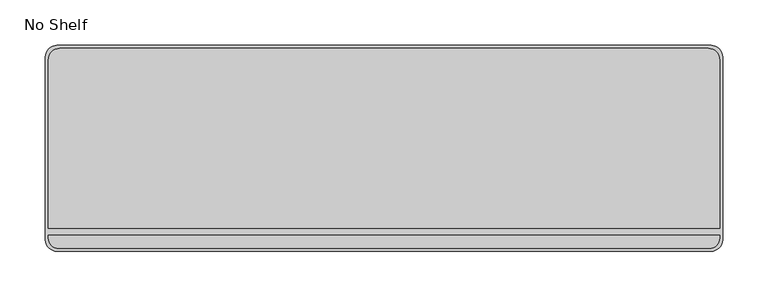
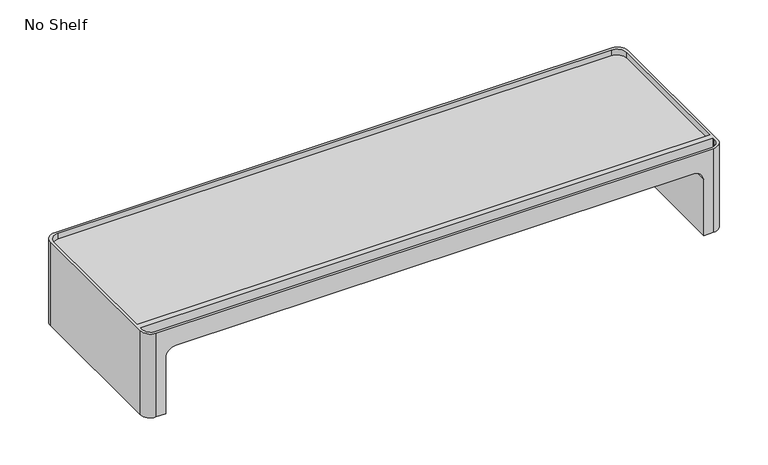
"""IFC4 building model written with IfcOpenShell, lengths in millimetres: furniture geometry, Steelcase - Worktool - SOTO II - Monitor Bridge : No Shelf."""

from ifc_helpers import new_model, si_unit, frame, origin, place, context, project, spatial, polyline, circle_curve, source, transform, mapped, element, save
from ifc_brep_helpers import plane_surface, cylinder_surface, revolved_surface, advanced_brep


def no_shelf_d7dae3b1(model_context):
    return source(origin(), model_context, "Body", "AdvancedBrep", [
        advanced_brep(
        [(-1.9313861, 14.6303873, 838.2031248), (10.7686139, 1.9303873, 838.2031248), (730.8586235, 1.9303873, 838.2031248), (743.5586235, 14.6303873, 838.2031248), (743.5586235, 215.9, 838.2031248), (730.8586235, 228.6, 838.2031248), (10.7686139, 228.6, 838.2031248), (-1.9313861, 215.9, 838.2031248), (13.9436139, 225.4249758, 838.2031248), (727.683672, 225.4249758, 838.2031248), (740.383672, 212.7249758, 838.2031248), (740.383672, 27.2122743, 838.2031248), (1.2436139, 27.2122743, 838.2031248), (1.2436139, 212.7249758, 838.2031248), (1.2436139, 19.6180613, 838.2031248), (740.383672, 19.6180613, 838.2031248), (740.383672, 16.5353751, 838.2031248), (728.953672, 5.1053751, 838.2031248), (12.6736139, 5.1053751, 838.2031248), (1.2436139, 16.5353751, 838.2031248), (-1.9313861, 14.6303873, 723.9), (-1.9313861, 215.9, 723.9), (10.7686139, 228.6, 723.9), (23.4466191, 228.6, 723.9), (23.4466191, 1.9303873, 723.9), (10.7686139, 1.9303873, 723.9), (730.8586235, 228.6, 723.9), (743.5586235, 215.9, 723.9), (743.5586235, 14.6303873, 723.9), (730.8586235, 1.9303873, 723.9), (718.1872071, 1.9303873, 723.9), (718.1872071, 228.6, 723.9), (23.4466191, 1.9303873, 800.0309877), (36.1466191, 1.9303873, 812.7309877), (705.4872071, 1.9303873, 812.7309877), (718.1872071, 1.9303873, 800.0309877), (718.1872071, 228.6, 800.0309877), (705.4872071, 228.6, 812.7309877), (36.1466191, 228.6, 812.7309877), (23.4466191, 228.6, 800.0309877), (727.683672, 225.4249758, 830.3983686), (13.9436139, 225.4249758, 830.3983686), (1.2436139, 212.7249758, 830.3983686), (1.2436139, 27.2122743, 830.3983686), (740.383672, 27.2122743, 830.3983686), (740.383672, 212.7249758, 830.3983686), (740.383672, 19.6180613, 817.0762894), (1.2436139, 19.6180613, 817.0762894), (1.2436139, 16.5353751, 817.0762894), (12.6736139, 5.1053751, 817.0762894), (728.953672, 5.1053751, 817.0762894), (740.383672, 16.5353751, 817.0762894)],
        [
            (0, 1, circle_curve(frame((10.7686139, 14.6303873, 838.2031248), z_axis=(0.0, 0.0, 1.0), x_axis=(1.0, 0.0, 0.0)), 12.7)),
            (1, 2),
            (2, 3, circle_curve(frame((730.8586235, 14.6303873, 838.2031248), z_axis=(0.0, 0.0, 1.0), x_axis=(1.0, 0.0, 0.0)), 12.7)),
            (3, 4),
            (4, 5, circle_curve(frame((730.8586235, 215.9, 838.2031248), z_axis=(0.0, 0.0, 1.0), x_axis=(1.0, 0.0, 0.0)), 12.7)),
            (5, 6),
            (6, 7, circle_curve(frame((10.7686139, 215.9, 838.2031248), z_axis=(0.0, 0.0, 1.0), x_axis=(1.0, 0.0, 0.0)), 12.7)),
            (7, 0),
            (8, 9),
            (9, 10, circle_curve(frame((727.683672, 212.7249758, 838.2031248), z_axis=(0.0, 0.0, -1.0), x_axis=(1.0, 0.0, 0.0)), 12.7)),
            (10, 11),
            (11, 12),
            (12, 13),
            (13, 8, circle_curve(frame((13.9436139, 212.7249758, 838.2031248), z_axis=(0.0, 0.0, -1.0), x_axis=(1.0, 0.0, 0.0)), 12.7)),
            (14, 15),
            (15, 16),
            (16, 17, circle_curve(frame((728.953672, 16.5353751, 838.2031248), z_axis=(0.0, 0.0, -1.0), x_axis=(1.0, 0.0, 0.0)), 11.43)),
            (17, 18),
            (18, 19, circle_curve(frame((12.6736139, 16.5353751, 838.2031248), z_axis=(0.0, 0.0, -1.0), x_axis=(1.0, 0.0, 0.0)), 11.43)),
            (19, 14),
            (20, 21),
            (21, 22, circle_curve(frame((10.7686139, 215.9, 723.9), z_axis=(0.0, 0.0, -1.0), x_axis=(1.0, 0.0, 0.0)), 12.7)),
            (22, 23),
            (23, 24),
            (24, 25),
            (25, 20, circle_curve(frame((10.7686139, 14.6303873, 723.9), z_axis=(0.0, 0.0, -1.0), x_axis=(1.0, 0.0, 0.0)), 12.7)),
            (26, 27, circle_curve(frame((730.8586235, 215.9, 723.9), z_axis=(0.0, 0.0, -1.0), x_axis=(1.0, 0.0, 0.0)), 12.7)),
            (27, 28),
            (28, 29, circle_curve(frame((730.8586235, 14.6303873, 723.9), z_axis=(0.0, 0.0, -1.0), x_axis=(1.0, 0.0, 0.0)), 12.7)),
            (29, 30),
            (30, 31),
            (31, 26),
            (0, 20),
            (25, 1),
            (24, 32),
            (32, 33, circle_curve(frame((36.1466191, 1.9303873, 800.0309877), z_axis=(0.0, 1.0, 0.0), x_axis=(1.0, 0.0, 0.0)), 12.7)),
            (33, 34),
            (34, 35, circle_curve(frame((705.4872071, 1.9303873, 800.0309877), z_axis=(0.0, 1.0, 0.0), x_axis=(1.0, 0.0, 0.0)), 12.7)),
            (35, 30),
            (29, 2),
            (28, 3),
            (27, 4),
            (26, 5),
            (31, 36),
            (36, 37, circle_curve(frame((705.4872071, 228.6, 800.0309877), z_axis=(0.0, -1.0, 0.0), x_axis=(1.0, 0.0, 0.0)), 12.7)),
            (37, 38),
            (38, 39, circle_curve(frame((36.1466191, 228.6, 800.0309877), z_axis=(0.0, -1.0, 0.0), x_axis=(1.0, 0.0, 0.0)), 12.7)),
            (39, 23),
            (22, 6),
            (21, 7),
            (39, 32),
            (35, 36),
            (34, 37),
            (33, 38),
            (40, 41),
            (41, 42, circle_curve(frame((13.9436139, 212.7249758, 830.3983686), z_axis=(0.0, 0.0, 1.0), x_axis=(1.0, 0.0, 0.0)), 12.7)),
            (42, 43),
            (43, 44),
            (44, 45),
            (45, 40, circle_curve(frame((727.683672, 212.7249758, 830.3983686), z_axis=(0.0, 0.0, 1.0), x_axis=(1.0, 0.0, 0.0)), 12.7)),
            (40, 9),
            (8, 41),
            (13, 42),
            (12, 43),
            (11, 44),
            (10, 45),
            (46, 47),
            (47, 48),
            (48, 49, circle_curve(frame((12.6736139, 16.5353751, 817.0762894), z_axis=(0.0, 0.0, 1.0), x_axis=(1.0, 0.0, 0.0)), 11.43)),
            (49, 50),
            (50, 51, circle_curve(frame((728.953672, 16.5353751, 817.0762894), z_axis=(0.0, 0.0, 1.0), x_axis=(1.0, 0.0, 0.0)), 11.43)),
            (51, 46),
            (46, 15),
            (14, 47),
            (19, 48),
            (18, 49),
            (17, 50),
            (16, 51),
        ],
        [
            plane_surface(frame((23.4686139, 14.6303873, 838.2031248), z_axis=(0.0, 0.0, 1.0), x_axis=(0.0, 1.0, 0.0))),
            plane_surface(frame((23.4686139, 14.6303873, 723.9), z_axis=(0.0, 0.0, -1.0), x_axis=(0.0, -1.0, 0.0))),
            cylinder_surface(frame((10.7686139, 14.6303873, 723.9), z_axis=(0.0, 0.0, 1.0), x_axis=(1.0, 0.0, 0.0)), 12.7),
            plane_surface(frame((10.7686139, 1.9303873, 838.2031248), z_axis=(0.0, -1.0, 0.0), x_axis=(0.0, 0.0, -1.0))),
            cylinder_surface(frame((730.8586235, 14.6303873, 723.9), z_axis=(0.0, 0.0, 1.0), x_axis=(1.0, 0.0, 0.0)), 12.7),
            plane_surface(frame((743.5586235, 14.6303873, 838.2031248), z_axis=(1.0, 0.0, 0.0), x_axis=(0.0, 0.0, -1.0))),
            cylinder_surface(frame((730.8586235, 215.9, 723.9), z_axis=(0.0, 0.0, 1.0), x_axis=(1.0, 0.0, 0.0)), 12.7),
            plane_surface(frame((730.8586235, 228.6, 838.2031248), z_axis=(0.0, 1.0, 0.0), x_axis=(0.0, 0.0, -1.0))),
            cylinder_surface(frame((10.7686139, 215.9, 723.9), z_axis=(0.0, 0.0, 1.0), x_axis=(1.0, 0.0, 0.0)), 12.7),
            plane_surface(frame((-1.9313861, 215.9, 838.2031248), z_axis=(-1.0, 0.0, 0.0), x_axis=(0.0, 0.0, -1.0))),
            plane_surface(frame((23.4466191, -190.5, 800.0309877), z_axis=(1.0, 0.0, 0.0), x_axis=(0.0, 1.0, 0.0))),
            plane_surface(frame((718.1872071, -190.5, 723.9), z_axis=(-1.0, 0.0, 0.0), x_axis=(0.0, 1.0, 0.0))),
            revolved_surface(polyline([(718.1872071, 1.9303873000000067, 800.0309877), (718.1872071, 228.6, 800.0309877)]), (705.4872071, 447.3250306, 800.0309877), (0.0, -1.0, 0.0)),
            plane_surface(frame((705.4872071, -190.5, 812.7309877), z_axis=(0.0, 0.0, -1.0), x_axis=(0.0, 1.0, 0.0))),
            revolved_surface(polyline([(48.8466191, 1.9303873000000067, 800.0309877), (48.8466191, 228.6, 800.0309877)]), (36.1466191, 447.3250306, 800.0309877), (0.0, -1.0, 0.0)),
            plane_surface(frame((12.7604916, 225.4249758, 830.3983686), z_axis=(0.0, 0.0, 1.0), x_axis=(1.0, 0.0, 0.0))),
            plane_surface(frame((727.683672, 225.4249758, 874.4453433), z_axis=(0.0, -1.0, 0.0), x_axis=(0.0, 0.0, -1.0))),
            revolved_surface(polyline([(26.6436139, 212.7249758, 838.2031248), (26.6436139, 212.7249758, 830.3983686)]), (13.9436139, 212.7249758, 830.3983686), (0.0, 0.0, 1.0)),
            plane_surface(frame((1.2436139, 212.7249758, 874.4453433), z_axis=(1.0, 0.0, 0.0), x_axis=(0.0, 0.0, -1.0))),
            plane_surface(frame((1.2436139, 27.2122743, 874.4453433), z_axis=(0.0, 1.0, 0.0), x_axis=(0.0, 0.0, -1.0))),
            plane_surface(frame((740.383672, 27.2122743, 874.4453433), z_axis=(-1.0, 0.0, 0.0), x_axis=(0.0, 0.0, -1.0))),
            revolved_surface(polyline([(740.383672, 212.7249758, 838.2031248), (740.383672, 212.7249758, 830.3983686)]), (727.683672, 212.7249758, 830.3983686), (0.0, 0.0, 1.0)),
            plane_surface(frame((1.2436139, 19.6180613, 817.0762894), z_axis=(0.0, 0.0, 1.0), x_axis=(1.0, 0.0, 0.0))),
            plane_surface(frame((740.383672, 19.6180613, 875.2667538), z_axis=(0.0, -1.0, 0.0), x_axis=(0.0, 0.0, -1.0))),
            plane_surface(frame((1.2436139, 19.6180613, 875.2667538), z_axis=(1.0, 0.0, 0.0), x_axis=(0.0, 0.0, -1.0))),
            revolved_surface(polyline([(24.1036139, 16.5353751, 838.2031248), (24.1036139, 16.5353751, 817.0762894)]), (12.6736139, 16.5353751, 817.0762894), (0.0, 0.0, 1.0)),
            plane_surface(frame((12.6736139, 5.1053751, 875.2667538), z_axis=(0.0, 1.0, 0.0), x_axis=(0.0, 0.0, -1.0))),
            revolved_surface(polyline([(740.3836719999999, 16.5353751, 838.2031248), (740.3836719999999, 16.5353751, 817.0762894)]), (728.953672, 16.5353751, 817.0762894), (0.0, 0.0, 1.0)),
            plane_surface(frame((740.383672, 16.5353751, 875.2667538), z_axis=(-1.0, 0.0, 0.0), x_axis=(0.0, 0.0, -1.0))),
        ],
        [
            (0, [[1, 2, 3, 4, 5, 6, 7, 8], [9, 10, 11, 12, 13, 14], [15, 16, 17, 18, 19, 20]]),
            (1, [[21, 22, 23, 24, 25, 26]]),
            (1, [[27, 28, 29, 30, 31, 32]]),
            (2, [[-1, 33, -26, 34]]),
            (3, [[-2, -34, -25, 35, 36, 37, 38, 39, -30, 40]]),
            (4, [[-3, -40, -29, 41]]),
            (5, [[-4, -41, -28, 42]]),
            (6, [[-5, -42, -27, 43]]),
            (7, [[-6, -43, -32, 44, 45, 46, 47, 48, -23, 49]]),
            (8, [[-7, -49, -22, 50]]),
            (9, [[-8, -50, -21, -33]]),
            (10, [[51, -35, -24, -48]]),
            (11, [[52, -44, -31, -39]]),
            (12, [[-52, -38, 53, -45]]),
            (13, [[-53, -37, 54, -46]]),
            (14, [[-51, -47, -54, -36]]),
            (15, [[55, 56, 57, 58, 59, 60]]),
            (16, [[-55, 61, -9, 62]]),
            (17, [[-56, -62, -14, 63]]),
            (18, [[-57, -63, -13, 64]]),
            (19, [[-58, -64, -12, 65]]),
            (20, [[-59, -65, -11, 66]]),
            (21, [[-60, -66, -10, -61]]),
            (22, [[67, 68, 69, 70, 71, 72]]),
            (23, [[-67, 73, -15, 74]]),
            (24, [[-68, -74, -20, 75]]),
            (25, [[-69, -75, -19, 76]]),
            (26, [[-70, -76, -18, 77]]),
            (27, [[-71, -77, -17, 78]]),
            (28, [[-72, -78, -16, -73]]),
        ],
    ),
    ])


if __name__ == "__main__":
    model = new_model("IFC4")
    model_context = context("Model", 3, world=origin())
    ifc_project = project(units=[si_unit("LENGTHUNIT", "METRE", prefix="MILLI")], contexts=[model_context])
    site = spatial("IfcSite", under=ifc_project)
    building = spatial("IfcBuilding", under=site)
    placement = place(None, origin())
    no_shelf_shape = no_shelf_d7dae3b1(model_context)
    element("IfcFurniture", 1, ObjectType="Steelcase - Worktool - SOTO II - Monitor Bridge : No Shelf", at=placement, inside=building, context=model_context, shape_type="MappedRepresentation", body=[
        mapped(no_shelf_shape, transform((0.0, 0.0, 0.0), x_axis=(1.0, 0.0, 0.0), y_axis=(0.0, 1.0, 0.0), z_axis=(0.0, 0.0, 1.0))),
    ])
    save(model, "model.ifc")
